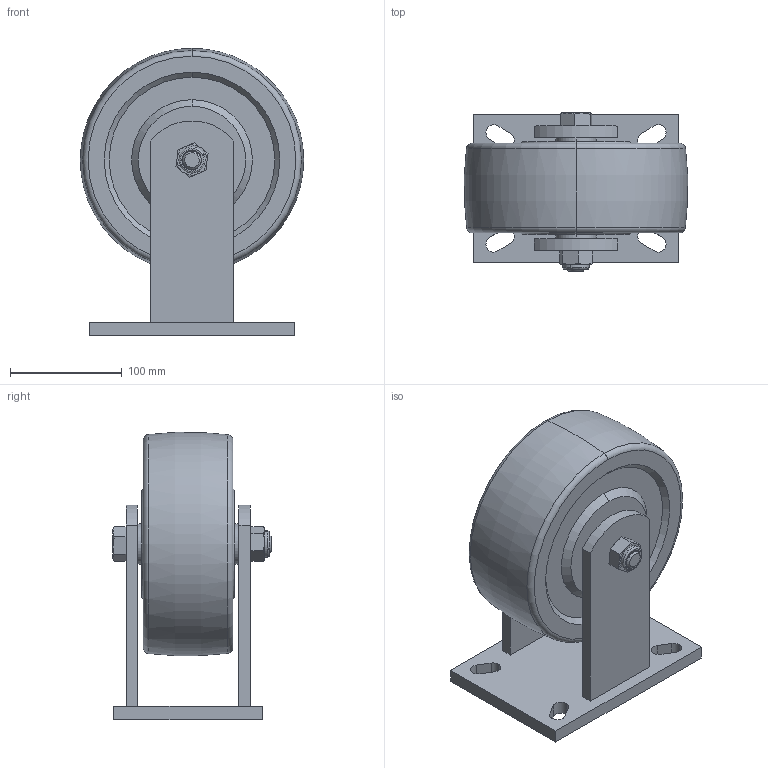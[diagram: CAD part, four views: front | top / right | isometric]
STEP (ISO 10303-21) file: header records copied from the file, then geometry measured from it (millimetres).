
FILE_DESCRIPTION (( 'STEP AP214' ), '1' );
FILE_NAME ('93108-938-26 ¶¨Ïò.STEP', '2019-12-26T04:30:08', ( 'Owner' ), ( 'Organization' ), 'SwSTEP 2.0', 'SolidWorks 2014', '' );
FILE_SCHEMA (( 'AUTOMOTIVE_DESIGN' ));
Length unit declared in the file: millimetre
Products named in the file (6): 930-33; 938c10; 938-26; 93108-938-26 隅砃; 930-34; 930c00 隅殤侐源
Assembly tree (6 placements, depth 2):
  93108-938-26 隅砃
    930c00 隅殤侐源
    938c10  x2
    930-33
    930-34
    938-26
Bounding box: 199.59 x 142 x 256.79 mm (x, y, z)
Volume: 2958282.9 mm3; surface area: 250988.1 mm2
Topology: 6 solids, 6 shells, 252 faces, 649 edges, 419 vertices
Faces by surface type: cylinder 116, plane 52, bspline 45, cone 33, torus 6
Entity records: 284547 total; most frequent: CARTESIAN_POINT 278932, ORIENTED_EDGE 1262, DIRECTION 878, EDGE_CURVE 631, VERTEX_POINT 407, AXIS2_PLACEMENT_3D 328, B_SPLINE_CURVE_WITH_KNOTS 287, EDGE_LOOP 268
